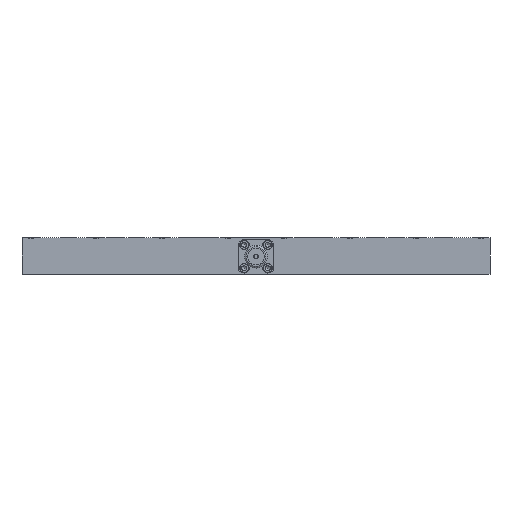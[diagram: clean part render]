
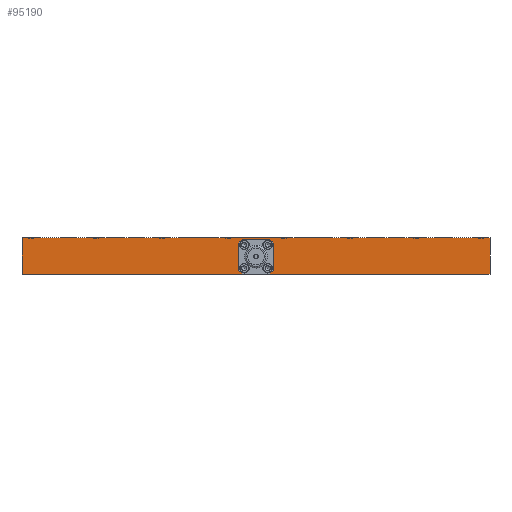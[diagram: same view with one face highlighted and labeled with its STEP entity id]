
A CAD part, left-side view. The second image highlights one B-rep face of the part: STEP entity #95190.
In plain terms, the highlighted planar face has unit normal (-1, 0, 0).
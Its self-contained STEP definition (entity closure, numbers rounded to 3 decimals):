
#928=LINE('',#119409,#8402);
#8012=LINE('',#136492,#15486);
#8016=LINE('',#136502,#15490);
#8019=LINE('',#136510,#15493);
#8022=LINE('',#136518,#15496);
#8060=LINE('',#136727,#15534);
#8061=LINE('',#136729,#15535);
#8062=LINE('',#136731,#15536);
#8402=VECTOR('',#101424,1000.);
#15486=VECTOR('',#115952,1000.);
#15490=VECTOR('',#115962,1000.);
#15493=VECTOR('',#115971,1000.);
#15496=VECTOR('',#115980,1000.);
#15534=VECTOR('',#116116,1000.);
#15535=VECTOR('',#116117,1000.);
#15536=VECTOR('',#116118,1000.);
#18496=PLANE('',#99840);
#34813=ORIENTED_EDGE('',*,*,#44885,.T.);
#34814=ORIENTED_EDGE('',*,*,#36907,.F.);
#34815=ORIENTED_EDGE('',*,*,#44886,.F.);
#34816=ORIENTED_EDGE('',*,*,#44887,.T.);
#34817=ORIENTED_EDGE('',*,*,#44820,.F.);
#34818=ORIENTED_EDGE('',*,*,#44805,.F.);
#34819=ORIENTED_EDGE('',*,*,#44808,.F.);
#34820=ORIENTED_EDGE('',*,*,#44810,.F.);
#34821=ORIENTED_EDGE('',*,*,#44812,.F.);
#34822=ORIENTED_EDGE('',*,*,#44814,.F.);
#34823=ORIENTED_EDGE('',*,*,#44816,.F.);
#34824=ORIENTED_EDGE('',*,*,#44818,.F.);
#36907=EDGE_CURVE('',#45907,#45908,#928,.T.);
#44805=EDGE_CURVE('',#51392,#51393,#8012,.T.);
#44808=EDGE_CURVE('',#51394,#51392,#52929,.T.);
#44810=EDGE_CURVE('',#51395,#51394,#8016,.T.);
#44812=EDGE_CURVE('',#51396,#51395,#52930,.T.);
#44814=EDGE_CURVE('',#51397,#51396,#8019,.T.);
#44816=EDGE_CURVE('',#51398,#51397,#52931,.T.);
#44818=EDGE_CURVE('',#51399,#51398,#8022,.T.);
#44820=EDGE_CURVE('',#51393,#51399,#52932,.T.);
#44885=EDGE_CURVE('',#51449,#45908,#8060,.T.);
#44886=EDGE_CURVE('',#51450,#45907,#8061,.T.);
#44887=EDGE_CURVE('',#51450,#51449,#8062,.T.);
#45907=VERTEX_POINT('',#119410);
#45908=VERTEX_POINT('',#119411);
#51392=VERTEX_POINT('',#136493);
#51393=VERTEX_POINT('',#136494);
#51394=VERTEX_POINT('',#136499);
#51395=VERTEX_POINT('',#136503);
#51396=VERTEX_POINT('',#136507);
#51397=VERTEX_POINT('',#136511);
#51398=VERTEX_POINT('',#136515);
#51399=VERTEX_POINT('',#136519);
#51449=VERTEX_POINT('',#136728);
#51450=VERTEX_POINT('',#136730);
#52929=CIRCLE('',#99784,6.);
#52930=CIRCLE('',#99787,6.);
#52931=CIRCLE('',#99790,6.);
#52932=CIRCLE('',#99793,6.);
#57501=EDGE_LOOP('',(#34813,#34814,#34815,#34816));
#57502=EDGE_LOOP('',(#34817,#34818,#34819,#34820,#34821,#34822,#34823,#34824));
#62745=FACE_BOUND('',#57501,.T.);
#62746=FACE_BOUND('',#57502,.T.);
#95190=ADVANCED_FACE('',(#62745,#62746),#18496,.T.);
#99784=AXIS2_PLACEMENT_3D('',#136498,#115957,#115958);
#99787=AXIS2_PLACEMENT_3D('',#136506,#115966,#115967);
#99790=AXIS2_PLACEMENT_3D('',#136514,#115975,#115976);
#99793=AXIS2_PLACEMENT_3D('',#136522,#115984,#115985);
#99840=AXIS2_PLACEMENT_3D('',#136726,#116114,#116115);
#101424=DIRECTION('',(0.,-1.,0.));
#115952=DIRECTION('',(0.,0.,-1.));
#115957=DIRECTION('',(-1.,0.,0.));
#115958=DIRECTION('',(0.,-1.,0.));
#115962=DIRECTION('',(0.,1.,0.));
#115966=DIRECTION('',(-1.,0.,0.));
#115967=DIRECTION('',(0.,-1.,0.));
#115971=DIRECTION('',(0.,0.,1.));
#115975=DIRECTION('',(-1.,0.,0.));
#115976=DIRECTION('',(0.,-1.,0.));
#115980=DIRECTION('',(0.,-1.,0.));
#115984=DIRECTION('',(-1.,0.,0.));
#115985=DIRECTION('',(0.,-1.,0.));
#116114=DIRECTION('',(-1.,0.,0.));
#116115=DIRECTION('',(0.,-1.,0.));
#116116=DIRECTION('',(0.,0.,1.));
#116117=DIRECTION('',(0.,0.,1.));
#116118=DIRECTION('',(0.,-1.,0.));
#119409=CARTESIAN_POINT('',(-82.7,63.5,4.));
#119410=CARTESIAN_POINT('',(-82.7,63.5,4.));
#119411=CARTESIAN_POINT('',(-82.7,-63.5,4.));
#136492=CARTESIAN_POINT('',(-82.7,4.75,2.526));
#136493=CARTESIAN_POINT('',(-82.7,4.75,2.526));
#136494=CARTESIAN_POINT('',(-82.7,4.75,-4.806));
#136498=CARTESIAN_POINT('',(-82.7,0.,-1.14));
#136499=CARTESIAN_POINT('',(-82.7,3.666,3.61));
#136502=CARTESIAN_POINT('',(-82.7,-3.666,3.61));
#136503=CARTESIAN_POINT('',(-82.7,-3.666,3.61));
#136506=CARTESIAN_POINT('',(-82.7,0.,-1.14));
#136507=CARTESIAN_POINT('',(-82.7,-4.75,2.526));
#136510=CARTESIAN_POINT('',(-82.7,-4.75,-4.806));
#136511=CARTESIAN_POINT('',(-82.7,-4.75,-4.806));
#136514=CARTESIAN_POINT('',(-82.7,0.,-1.14));
#136515=CARTESIAN_POINT('',(-82.7,-3.666,-5.89));
#136518=CARTESIAN_POINT('',(-82.7,3.666,-5.89));
#136519=CARTESIAN_POINT('',(-82.7,3.666,-5.89));
#136522=CARTESIAN_POINT('',(-82.7,0.,-1.14));
#136726=CARTESIAN_POINT('',(-82.7,63.5,-6.));
#136727=CARTESIAN_POINT('',(-82.7,-63.5,-6.));
#136728=CARTESIAN_POINT('',(-82.7,-63.5,-6.));
#136729=CARTESIAN_POINT('',(-82.7,63.5,-6.));
#136730=CARTESIAN_POINT('',(-82.7,63.5,-6.));
#136731=CARTESIAN_POINT('',(-82.7,63.5,-6.));
